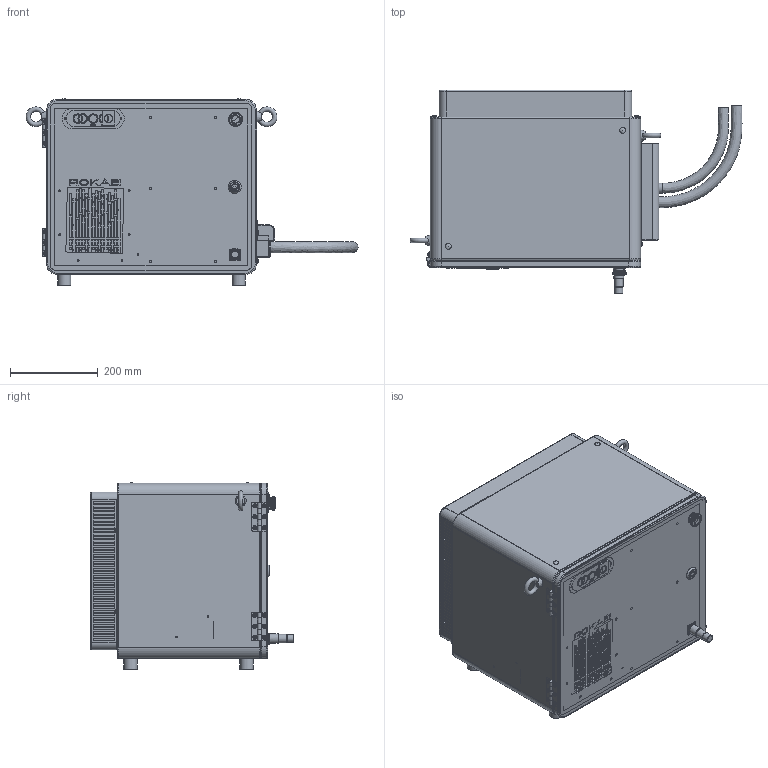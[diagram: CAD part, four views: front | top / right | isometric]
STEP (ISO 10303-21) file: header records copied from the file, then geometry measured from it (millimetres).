
FILE_DESCRIPTION(/* description */ (''),/* implementation_level */ '2;1');
FILE_NAME(/* name */ 'XBC5_简化模型(20221217).stp',/* time_stamp */ '2022-12-17T11:11:44+08:00',/* author */ (''),/* organization */ (''),/* preprocessor_version */ 'ST-DEVELOPER v16',/* originating_system */ 'SIEMENS PLM Software NX 10.0',/* authorisation */ '');
FILE_SCHEMA (('AUTOMOTIVE_DESIGN { 1 0 10303 214 3 1 1 1 }'));
Products named in the file (1): XBC5_简化模型(20221217)
Bounding box: 757.94 x 465 x 426.6 mm (x, y, z)
Volume: 2639622.7 mm3; surface area: 2594473.1 mm2
Topology: 3 solids, 24 shells, 5693 faces, 14173 edges, 9231 vertices
Faces by surface type: plane 3371, cylinder 810, bspline 800, cone 466, torus 107, extrusion 89, sphere 39, revolution 11
Full cylindrical faces by diameter (mm): 2.38 x4, 3.4 x2, 3.838 x25, 4 x44, 4.2 x8, 4.5 x10, 4.826 x12, 5 x38, 5.209 x5, 5.38 x3, 5.4 x19, 5.5 x14, 6.35 x12, 6.647 x4, 7.11 x3, 7.9 x5, 8 x25, 9 x6, 9.5 x12, 10 x2, 11 x2, 13 x1, 18 x1, 19 x6, 19.5 x1, 19.6 x1, 20.2 x1, 22 x2, 23 x1, 26 x1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
Entity records: 184109 total; most frequent: CARTESIAN_POINT 56559, ORIENTED_EDGE 26982, DIRECTION 23026, EDGE_CURVE 13491, VECTOR 9023, VERTEX_POINT 9016, LINE 8934, AXIS2_PLACEMENT_3D 6996
